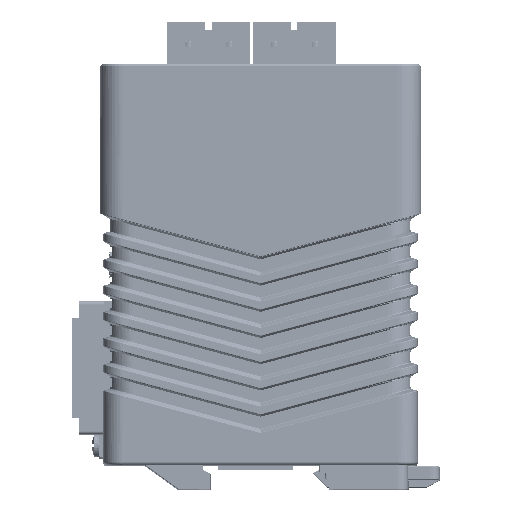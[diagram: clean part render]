
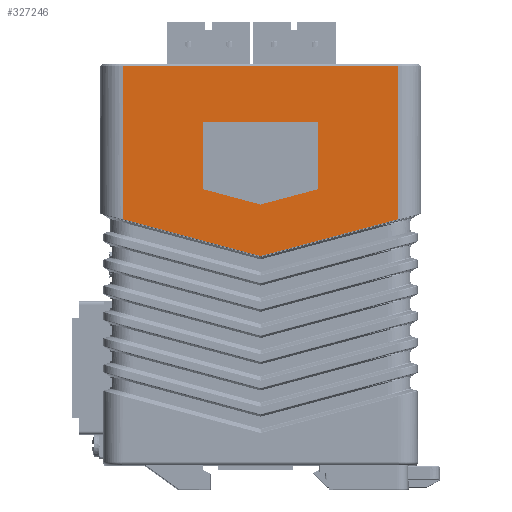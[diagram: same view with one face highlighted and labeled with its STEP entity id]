
A CAD part, left-side view. The second image highlights one B-rep face of the part: STEP entity #327246.
In plain terms, the highlighted planar face has unit normal (-1, 0, 0).
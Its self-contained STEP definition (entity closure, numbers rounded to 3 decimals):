
#20 = CARTESIAN_POINT ( 'NONE',  ( -28.535, -17.503, -37.817 ) ) ;
#3038 = CARTESIAN_POINT ( 'NONE',  ( -28.535, -0.065, -58.209 ) ) ;
#9533 = VECTOR ( 'NONE', #162519, 1000. ) ;
#10089 = LINE ( 'NONE', #349161, #394250 ) ;
#11367 = VERTEX_POINT ( 'NONE', #514344 ) ;
#18612 = CARTESIAN_POINT ( 'NONE',  ( -28.535, -17.503, -17.482 ) ) ;
#26382 = EDGE_CURVE ( 'NONE', #52841, #421706, #88978, .T. ) ;
#31639 = VERTEX_POINT ( 'NONE', #504789 ) ;
#34356 = DIRECTION ( 'NONE',  ( 0., 1., 0. ) ) ;
#40042 = ORIENTED_EDGE ( 'NONE', *, *, #194806, .F. ) ;
#47258 = ORIENTED_EDGE ( 'NONE', *, *, #131411, .F. ) ;
#52841 = VERTEX_POINT ( 'NONE', #321811 ) ;
#54858 = EDGE_CURVE ( 'NONE', #11367, #229182, #176801, .T. ) ;
#61489 = ORIENTED_EDGE ( 'NONE', *, *, #377755, .F. ) ;
#71565 = CARTESIAN_POINT ( 'NONE',  ( -28.535, 41.895, 0.25 ) ) ;
#88978 = LINE ( 'NONE', #516245, #240024 ) ;
#94286 = CARTESIAN_POINT ( 'NONE',  ( -28.535, 0., -42.506 ) ) ;
#96135 = EDGE_CURVE ( 'NONE', #52841, #463648, #158672, .T. ) ;
#108616 = FACE_OUTER_BOUND ( 'NONE', #341761, .T. ) ;
#114174 = FACE_BOUND ( 'NONE', #543603, .T. ) ;
#115769 = DIRECTION ( 'NONE',  ( 0., 1., 0. ) ) ;
#117387 = VECTOR ( 'NONE', #115769, 1000. ) ;
#131411 = EDGE_CURVE ( 'NONE', #374267, #279313, #427404, .T. ) ;
#131834 = VECTOR ( 'NONE', #222556, 1000. ) ;
#148649 = PLANE ( 'NONE',  #424509 ) ;
#158672 = LINE ( 'NONE', #508773, #117387 ) ;
#159856 = CARTESIAN_POINT ( 'NONE',  ( -28.535, -17.503, -17.482 ) ) ;
#162519 = DIRECTION ( 'NONE',  ( 0., -0.966, -0.259 ) ) ;
#176801 = LINE ( 'NONE', #3038, #548302 ) ;
#177581 = DIRECTION ( 'NONE',  ( 0., -0.966, 0.259 ) ) ;
#178437 = EDGE_CURVE ( 'NONE', #463648, #11367, #10089, .T. ) ;
#182596 = LINE ( 'NONE', #94286, #131834 ) ;
#185219 = DIRECTION ( 'NONE',  ( 0., -0.966, -0.259 ) ) ;
#191714 = ORIENTED_EDGE ( 'NONE', *, *, #96135, .T. ) ;
#194806 = EDGE_CURVE ( 'NONE', #281821, #31639, #430985, .T. ) ;
#196347 = EDGE_CURVE ( 'NONE', #279313, #281821, #474010, .T. ) ;
#201714 = CARTESIAN_POINT ( 'NONE',  ( -28.535, -17.503, -37.817 ) ) ;
#205331 = DIRECTION ( 'NONE',  ( 0., 0., -1. ) ) ;
#218805 = VECTOR ( 'NONE', #177581, 1000. ) ;
#222556 = DIRECTION ( 'NONE',  ( 0., -0.966, 0.259 ) ) ;
#229182 = VERTEX_POINT ( 'NONE', #376370 ) ;
#240024 = VECTOR ( 'NONE', #302572, 1000. ) ;
#269773 = LINE ( 'NONE', #20, #397254 ) ;
#277014 = CARTESIAN_POINT ( 'NONE',  ( -28.535, -41.83, -46.983 ) ) ;
#279313 = VERTEX_POINT ( 'NONE', #390773 ) ;
#281821 = VERTEX_POINT ( 'NONE', #309644 ) ;
#302572 = DIRECTION ( 'NONE',  ( 0., 0., -1. ) ) ;
#307717 = VERTEX_POINT ( 'NONE', #201714 ) ;
#309644 = CARTESIAN_POINT ( 'NONE',  ( -28.535, 17.503, -37.817 ) ) ;
#313950 = ORIENTED_EDGE ( 'NONE', *, *, #327404, .F. ) ;
#319781 = LINE ( 'NONE', #277014, #218805 ) ;
#321811 = CARTESIAN_POINT ( 'NONE',  ( -28.535, -41.895, -0.354 ) ) ;
#327246 = ADVANCED_FACE ( 'NONE', ( #114174, #108616 ), #148649, .F. ) ;
#327404 = EDGE_CURVE ( 'NONE', #307717, #374267, #269773, .T. ) ;
#341761 = EDGE_LOOP ( 'NONE', ( #543423, #410105, #345534, #385830, #191714 ) ) ;
#343149 = DIRECTION ( 'NONE',  ( 0., 0., -1. ) ) ;
#345534 = ORIENTED_EDGE ( 'NONE', *, *, #387951, .T. ) ;
#349161 = CARTESIAN_POINT ( 'NONE',  ( -28.535, 41.895, 0.25 ) ) ;
#374267 = VERTEX_POINT ( 'NONE', #18612 ) ;
#376370 = CARTESIAN_POINT ( 'NONE',  ( -28.535, 0., -58.191 ) ) ;
#377755 = EDGE_CURVE ( 'NONE', #31639, #307717, #182596, .T. ) ;
#384035 = CARTESIAN_POINT ( 'NONE',  ( -28.535, -41.895, -46.965 ) ) ;
#385830 = ORIENTED_EDGE ( 'NONE', *, *, #26382, .F. ) ;
#387951 = EDGE_CURVE ( 'NONE', #229182, #421706, #319781, .T. ) ;
#390773 = CARTESIAN_POINT ( 'NONE',  ( -28.535, 17.503, -17.482 ) ) ;
#391711 = CARTESIAN_POINT ( 'NONE',  ( -28.535, 41.895, -0.354 ) ) ;
#394250 = VECTOR ( 'NONE', #474437, 1000. ) ;
#397254 = VECTOR ( 'NONE', #443452, 1000. ) ;
#410105 = ORIENTED_EDGE ( 'NONE', *, *, #54858, .T. ) ;
#418993 = DIRECTION ( 'NONE',  ( 1., 0., 0. ) ) ;
#421706 = VERTEX_POINT ( 'NONE', #384035 ) ;
#424509 = AXIS2_PLACEMENT_3D ( 'NONE', #71565, #418993, #205331 ) ;
#427404 = LINE ( 'NONE', #159856, #550445 ) ;
#430985 = LINE ( 'NONE', #516449, #9533 ) ;
#443452 = DIRECTION ( 'NONE',  ( 0., 0., 1. ) ) ;
#447716 = VECTOR ( 'NONE', #343149, 1000. ) ;
#463648 = VERTEX_POINT ( 'NONE', #391711 ) ;
#474010 = LINE ( 'NONE', #559612, #447716 ) ;
#474437 = DIRECTION ( 'NONE',  ( 0., 0., -1. ) ) ;
#482687 = ORIENTED_EDGE ( 'NONE', *, *, #196347, .F. ) ;
#504789 = CARTESIAN_POINT ( 'NONE',  ( -28.535, 0., -42.506 ) ) ;
#508773 = CARTESIAN_POINT ( 'NONE',  ( -28.535, 41.895, -0.354 ) ) ;
#514344 = CARTESIAN_POINT ( 'NONE',  ( -28.535, 41.895, -46.965 ) ) ;
#516245 = CARTESIAN_POINT ( 'NONE',  ( -28.535, -41.895, 0.25 ) ) ;
#516449 = CARTESIAN_POINT ( 'NONE',  ( -28.535, 17.503, -37.817 ) ) ;
#543423 = ORIENTED_EDGE ( 'NONE', *, *, #178437, .T. ) ;
#543603 = EDGE_LOOP ( 'NONE', ( #482687, #47258, #313950, #61489, #40042 ) ) ;
#548302 = VECTOR ( 'NONE', #185219, 1000. ) ;
#550445 = VECTOR ( 'NONE', #34356, 1000. ) ;
#559612 = CARTESIAN_POINT ( 'NONE',  ( -28.535, 17.503, -17.482 ) ) ;
